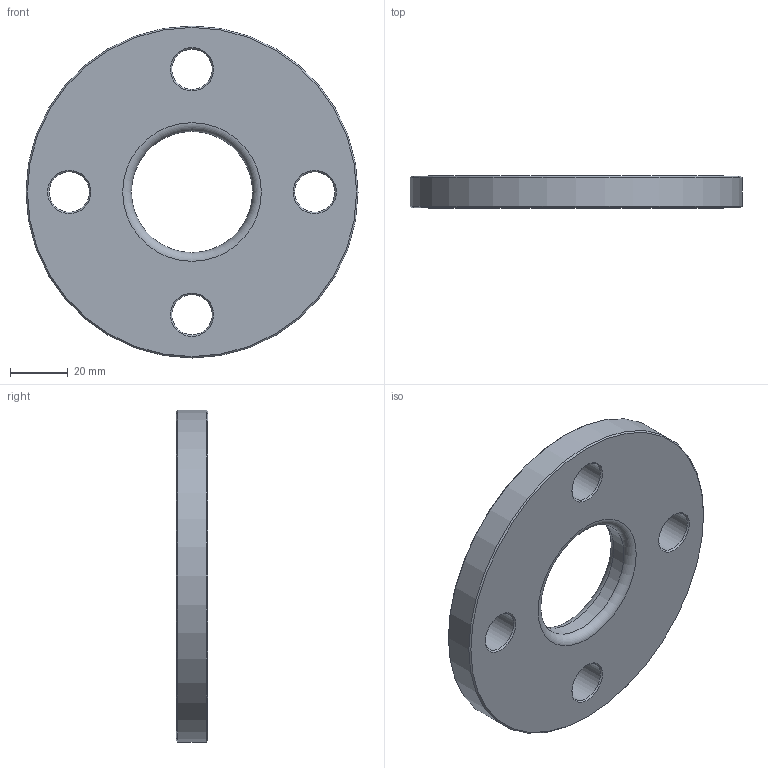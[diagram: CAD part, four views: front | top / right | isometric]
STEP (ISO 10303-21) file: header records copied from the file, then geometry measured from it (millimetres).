
FILE_DESCRIPTION(/* description */ ('Unknown'),/* implementation_level */ '2;1');
FILE_NAME(/* name */ 'FZ032L',/* time_stamp */ '2021-03-15T15:15:24+01:00',/* author */ ('Unknown'),/* organization */ ('Unknown'),/* preprocessor_version */ 'ST-DEVELOPER v16.7',/* originating_system */ 'Solid Edge',/* authorisation */ 'Unknown');
FILE_SCHEMA (('AUTOMOTIVE_DESIGN {1 0 10303 214 3 1 1}'));
Length unit declared in the file: millimetre
Products named in the file (1): FZ032L
Bounding box: 115 x 11 x 115 mm (x, y, z)
Volume: 91581.6 mm3; surface area: 23487.6 mm2
Topology: 1 solids, 1 shells, 20 faces, 54 edges, 36 vertices
Faces by surface type: cone 10, cylinder 6, plane 2, torus 2
Full cylindrical faces by diameter (mm): 14 x4, 42 x1, 115 x1
Entity records: 494 total; most frequent: DIRECTION 90, CARTESIAN_POINT 69, ORIENTED_EDGE 48, EDGE_LOOP 48, FACE_BOUND 48, AXIS2_PLACEMENT_3D 45, EDGE_CURVE 24, VERTEX_POINT 24
